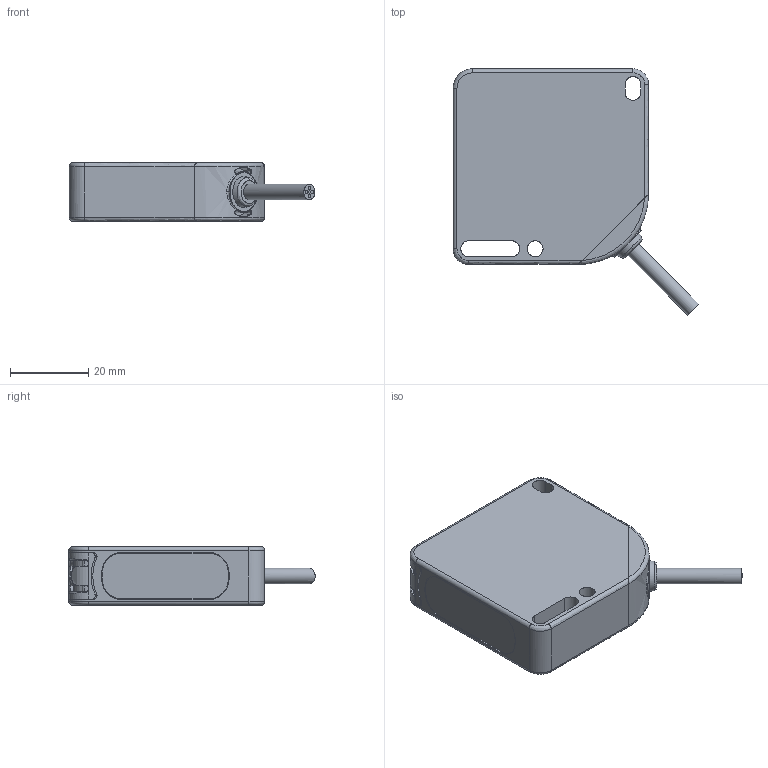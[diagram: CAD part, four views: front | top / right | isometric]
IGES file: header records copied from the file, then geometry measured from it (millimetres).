
Global section: file name: D:\Studi\DSD-0185.igs; preprocessor: I-DEAS 3D IGES Translator 11; date: 20080901.124929; units: millimetre
Bounding box: 62.89 x 62.95 x 15 mm (x, y, z)
Volume: 504.6 mm3; surface area: 11943.8 mm2
Topology: 2 solids, 2 shells, 263 faces, 1249 edges, 1149 vertices
Faces by surface type: bspline 263
